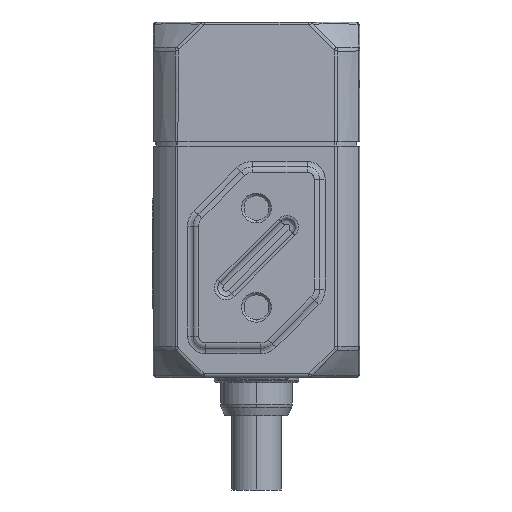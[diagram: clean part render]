
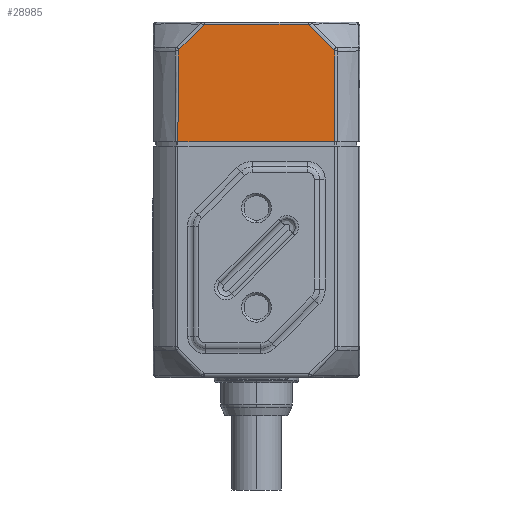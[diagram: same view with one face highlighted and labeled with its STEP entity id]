
A CAD part, left-side view. The second image highlights one B-rep face of the part: STEP entity #28985.
In plain terms, the highlighted planar face has unit normal (-1, 0, 0.011).
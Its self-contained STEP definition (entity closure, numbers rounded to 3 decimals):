
#215 = DIRECTION ( 'NONE',  ( -1., 0., 0.01 ) ) ;
#684 = CARTESIAN_POINT ( 'NONE',  ( -22.662, 9.255, 25.717 ) ) ;
#1976 = CARTESIAN_POINT ( 'NONE',  ( -22.63, 6.174, 28.732 ) ) ;
#2693 = LINE ( 'NONE', #47721, #11386 ) ;
#2882 = CARTESIAN_POINT ( 'NONE',  ( -22.63, -6.372, 28.733 ) ) ;
#3246 = CARTESIAN_POINT ( 'NONE',  ( -22.664, 9.336, 25.528 ) ) ;
#3732 = ORIENTED_EDGE ( 'NONE', *, *, #47317, .T. ) ;
#4398 = CARTESIAN_POINT ( 'NONE',  ( -22.635, 6.72, 28.264 ) ) ;
#4923 = ORIENTED_EDGE ( 'NONE', *, *, #11177, .T. ) ;
#5147 = ORIENTED_EDGE ( 'NONE', *, *, #37340, .T. ) ;
#5548 = CARTESIAN_POINT ( 'NONE',  ( -22.63, 6.16, 28.733 ) ) ;
#5832 = ORIENTED_EDGE ( 'NONE', *, *, #18828, .T. ) ;
#6156 = CARTESIAN_POINT ( 'NONE',  ( -22.633, -6.687, 28.498 ) ) ;
#6266 = EDGE_CURVE ( 'NONE', #18720, #36027, #37572, .T. ) ;
#6685 = CARTESIAN_POINT ( 'NONE',  ( -22.663, 9.335, 25.599 ) ) ;
#7490 = LINE ( 'NONE', #24201, #35720 ) ;
#7605 = EDGE_CURVE ( 'NONE', #11914, #9523, #11654, .T. ) ;
#7840 = CARTESIAN_POINT ( 'NONE',  ( -22.664, 9.336, 25.528 ) ) ;
#7993 = DIRECTION ( 'NONE',  ( 0.01, 0., 1. ) ) ;
#8137 = CARTESIAN_POINT ( 'NONE',  ( -22.662, -9.495, 25.717 ) ) ;
#9143 = CARTESIAN_POINT ( 'NONE',  ( -22.63, 6.146, 28.733 ) ) ;
#9476 = CARTESIAN_POINT ( 'NONE',  ( -22.779, -9.611, 14.53 ) ) ;
#9523 = VERTEX_POINT ( 'NONE', #19699 ) ;
#9543 = CARTESIAN_POINT ( 'NONE',  ( -22.702, -9.587, 21.862 ) ) ;
#9871 = CARTESIAN_POINT ( 'NONE',  ( -22.643, -7.755, 27.535 ) ) ;
#10525 = CARTESIAN_POINT ( 'NONE',  ( -22.779, -9.611, 14.53 ) ) ;
#11177 = EDGE_CURVE ( 'NONE', #15355, #41592, #45982, .T. ) ;
#11386 = VECTOR ( 'NONE', #18956, 1000. ) ;
#11654 = B_SPLINE_CURVE_WITH_KNOTS ( 'NONE', 3,
 ( #7840, #36974, #37132, #44748 ),
 .UNSPECIFIED., .F., .F.,
 ( 4, 4 ),
 ( 0., 0.011 ),
 .UNSPECIFIED. ) ;
#11902 = ORIENTED_EDGE ( 'NONE', *, *, #43749, .T. ) ;
#11914 = VERTEX_POINT ( 'NONE', #37477 ) ;
#12249 = VERTEX_POINT ( 'NONE', #29824 ) ;
#13258 = B_SPLINE_CURVE_WITH_KNOTS ( 'NONE', 3,
 ( #38598, #9143, #5548, #1976 ),
 .UNSPECIFIED., .F., .F.,
 ( 4, 4 ),
 ( 0., 0. ),
 .UNSPECIFIED. ) ;
#14538 = CARTESIAN_POINT ( 'NONE',  ( -22.741, -9.599, 18.196 ) ) ;
#15333 = B_SPLINE_CURVE_WITH_KNOTS ( 'NONE', 3,
 ( #39348, #27674, #31408, #9871, #17099, #43064, #6156, #42741 ),
 .UNSPECIFIED., .F., .F.,
 ( 4, 2, 2, 4 ),
 ( 0., 0.002, 0.003, 0.004 ),
 .UNSPECIFIED. ) ;
#15355 = VERTEX_POINT ( 'NONE', #9476 ) ;
#15689 = CARTESIAN_POINT ( 'NONE',  ( -22.64, 7.253, 27.781 ) ) ;
#16760 = VERTEX_POINT ( 'NONE', #42454 ) ;
#17099 = CARTESIAN_POINT ( 'NONE',  ( -22.64, -7.493, 27.781 ) ) ;
#18277 = CARTESIAN_POINT ( 'NONE',  ( -22.664, -9.575, 25.529 ) ) ;
#18521 = CARTESIAN_POINT ( 'NONE',  ( -22.662, -9.495, 25.717 ) ) ;
#18720 = VERTEX_POINT ( 'NONE', #38744 ) ;
#18828 = EDGE_CURVE ( 'NONE', #12249, #34900, #7490, .T. ) ;
#18956 = DIRECTION ( 'NONE',  ( 0., -1., 0. ) ) ;
#19339 = CARTESIAN_POINT ( 'NONE',  ( -22.63, 6.132, 28.733 ) ) ;
#19699 = CARTESIAN_POINT ( 'NONE',  ( -22.779, 9.371, 14.53 ) ) ;
#19834 = EDGE_LOOP ( 'NONE', ( #42918, #31171, #3732, #4923, #11902, #31976, #5147, #5832, #32226, #34345 ) ) ;
#21254 = CARTESIAN_POINT ( 'NONE',  ( -22.63, -6.4, 28.733 ) ) ;
#21413 = CARTESIAN_POINT ( 'NONE',  ( -22.63, -6.386, 28.733 ) ) ;
#22268 = CARTESIAN_POINT ( 'NONE',  ( -22.662, -9.542, 25.664 ) ) ;
#22740 = CARTESIAN_POINT ( 'NONE',  ( -22.643, 7.515, 27.535 ) ) ;
#23058 = CARTESIAN_POINT ( 'NONE',  ( -22.656, 8.78, 26.258 ) ) ;
#24201 = CARTESIAN_POINT ( 'NONE',  ( -22.63, 9.551, 28.733 ) ) ;
#25312 = CARTESIAN_POINT ( 'NONE',  ( -22.662, 9.302, 25.665 ) ) ;
#25688 = CARTESIAN_POINT ( 'NONE',  ( -22.664, -9.575, 25.529 ) ) ;
#27674 = CARTESIAN_POINT ( 'NONE',  ( -22.656, -9.02, 26.258 ) ) ;
#28715 = CARTESIAN_POINT ( 'NONE',  ( -22.663, -9.575, 25.599 ) ) ;
#28985 = ADVANCED_FACE ( 'NONE', ( #44525 ), #33890, .T. ) ;
#29824 = CARTESIAN_POINT ( 'NONE',  ( -22.63, -6.372, 28.733 ) ) ;
#31171 = ORIENTED_EDGE ( 'NONE', *, *, #7605, .T. ) ;
#31408 = CARTESIAN_POINT ( 'NONE',  ( -22.651, -8.526, 26.78 ) ) ;
#31976 = ORIENTED_EDGE ( 'NONE', *, *, #39140, .T. ) ;
#32226 = ORIENTED_EDGE ( 'NONE', *, *, #36935, .T. ) ;
#33099 = B_SPLINE_CURVE_WITH_KNOTS ( 'NONE', 3,
 ( #18277, #28715, #22268, #8137 ),
 .UNSPECIFIED., .F., .F.,
 ( 4, 4 ),
 ( 0., 0. ),
 .UNSPECIFIED. ) ;
#33510 = B_SPLINE_CURVE_WITH_KNOTS ( 'NONE', 3,
 ( #39494, #21254, #21413, #2882 ),
 .UNSPECIFIED., .F., .F.,
 ( 4, 4 ),
 ( 0., 0. ),
 .UNSPECIFIED. ) ;
#33890 = PLANE ( 'NONE',  #44683 ) ;
#34034 = CARTESIAN_POINT ( 'NONE',  ( -22.633, 6.447, 28.498 ) ) ;
#34196 = CARTESIAN_POINT ( 'NONE',  ( -22.63, 6.174, 28.732 ) ) ;
#34345 = ORIENTED_EDGE ( 'NONE', *, *, #6266, .T. ) ;
#34900 = VERTEX_POINT ( 'NONE', #19339 ) ;
#35146 = VERTEX_POINT ( 'NONE', #18521 ) ;
#35720 = VECTOR ( 'NONE', #46192, 1000. ) ;
#36027 = VERTEX_POINT ( 'NONE', #36311 ) ;
#36311 = CARTESIAN_POINT ( 'NONE',  ( -22.662, 9.255, 25.717 ) ) ;
#36935 = EDGE_CURVE ( 'NONE', #34900, #18720, #13258, .T. ) ;
#36974 = CARTESIAN_POINT ( 'NONE',  ( -22.702, 9.347, 21.862 ) ) ;
#37132 = CARTESIAN_POINT ( 'NONE',  ( -22.741, 9.359, 18.196 ) ) ;
#37285 = CARTESIAN_POINT ( 'NONE',  ( -22.779, 9.551, 14.53 ) ) ;
#37340 = EDGE_CURVE ( 'NONE', #16760, #12249, #33510, .T. ) ;
#37477 = CARTESIAN_POINT ( 'NONE',  ( -22.664, 9.336, 25.528 ) ) ;
#37572 = B_SPLINE_CURVE_WITH_KNOTS ( 'NONE', 3,
 ( #34196, #34034, #4398, #15689, #22740, #41472, #23058, #684 ),
 .UNSPECIFIED., .F., .F.,
 ( 4, 2, 2, 4 ),
 ( 0., 0.001, 0.002, 0.004 ),
 .UNSPECIFIED. ) ;
#38598 = CARTESIAN_POINT ( 'NONE',  ( -22.63, 6.132, 28.733 ) ) ;
#38744 = CARTESIAN_POINT ( 'NONE',  ( -22.63, 6.174, 28.732 ) ) ;
#39140 = EDGE_CURVE ( 'NONE', #35146, #16760, #15333, .T. ) ;
#39348 = CARTESIAN_POINT ( 'NONE',  ( -22.662, -9.495, 25.717 ) ) ;
#39494 = CARTESIAN_POINT ( 'NONE',  ( -22.63, -6.414, 28.732 ) ) ;
#39986 = CARTESIAN_POINT ( 'NONE',  ( -22.664, -9.575, 25.529 ) ) ;
#40564 = EDGE_CURVE ( 'NONE', #36027, #11914, #42662, .T. ) ;
#41472 = CARTESIAN_POINT ( 'NONE',  ( -22.651, 8.286, 26.78 ) ) ;
#41592 = VERTEX_POINT ( 'NONE', #25688 ) ;
#42454 = CARTESIAN_POINT ( 'NONE',  ( -22.63, -6.414, 28.732 ) ) ;
#42662 = B_SPLINE_CURVE_WITH_KNOTS ( 'NONE', 3,
 ( #43753, #25312, #6685, #3246 ),
 .UNSPECIFIED., .F., .F.,
 ( 4, 4 ),
 ( 0., 0. ),
 .UNSPECIFIED. ) ;
#42741 = CARTESIAN_POINT ( 'NONE',  ( -22.63, -6.414, 28.732 ) ) ;
#42918 = ORIENTED_EDGE ( 'NONE', *, *, #40564, .T. ) ;
#43064 = CARTESIAN_POINT ( 'NONE',  ( -22.635, -6.96, 28.264 ) ) ;
#43749 = EDGE_CURVE ( 'NONE', #41592, #35146, #33099, .T. ) ;
#43753 = CARTESIAN_POINT ( 'NONE',  ( -22.662, 9.255, 25.717 ) ) ;
#44525 = FACE_OUTER_BOUND ( 'NONE', #19834, .T. ) ;
#44683 = AXIS2_PLACEMENT_3D ( 'NONE', #37285, #215, #7993 ) ;
#44748 = CARTESIAN_POINT ( 'NONE',  ( -22.779, 9.371, 14.53 ) ) ;
#45982 = B_SPLINE_CURVE_WITH_KNOTS ( 'NONE', 3,
 ( #10525, #14538, #9543, #39986 ),
 .UNSPECIFIED., .F., .F.,
 ( 4, 4 ),
 ( 0., 0.011 ),
 .UNSPECIFIED. ) ;
#46192 = DIRECTION ( 'NONE',  ( 0., 1., 0. ) ) ;
#47317 = EDGE_CURVE ( 'NONE', #9523, #15355, #2693, .T. ) ;
#47721 = CARTESIAN_POINT ( 'NONE',  ( -22.779, 9.551, 14.53 ) ) ;
